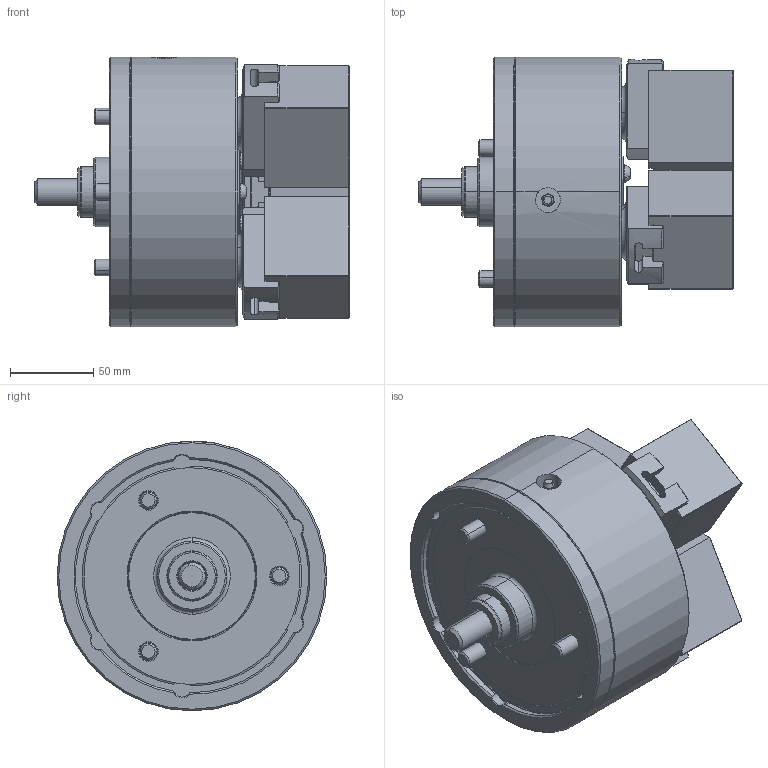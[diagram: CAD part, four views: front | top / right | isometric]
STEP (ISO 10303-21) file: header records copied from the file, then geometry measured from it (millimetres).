
FILE_DESCRIPTION (( 'STEP AP214' ), '1' );
FILE_NAME ('PW06_CL.STEP', '2019-10-03T01:56:07', ( '' ), ( '' ), 'SwSTEP 2.0', 'SolidWorks 2017', '' );
FILE_SCHEMA (( 'AUTOMOTIVE_DESIGN' ));
Length unit declared in the file: millimetre
Products named in the file (5): 結合_OD; 0030110016; 61P422013; 61P324975; PW06_CL
Assembly tree (13 placements, depth 2):
  PW06_CL
    61P324975  x3
    61P422013  x3
    0030110016  x6
    結合_OD
Bounding box: 188.69 x 162 x 162 mm (x, y, z)
Volume: 2043942.8 mm3; surface area: 229369.9 mm2
Topology: 13 solids, 14 shells, 1741 faces, 4270 edges, 2668 vertices
Faces by surface type: plane 848, cone 315, cylinder 276, bspline 241, torus 61
Entity records: 52824 total; most frequent: CARTESIAN_POINT 20146, ORIENTED_EDGE 7160, DIRECTION 5920, EDGE_CURVE 3580, VERTEX_POINT 2273, AXIS2_PLACEMENT_3D 1999, LINE 1922, VECTOR 1922
